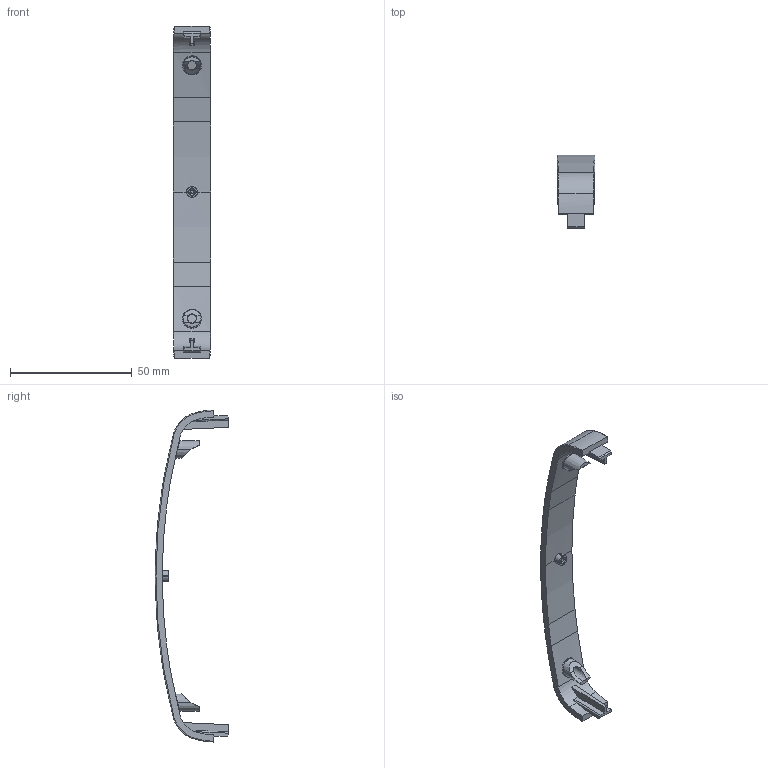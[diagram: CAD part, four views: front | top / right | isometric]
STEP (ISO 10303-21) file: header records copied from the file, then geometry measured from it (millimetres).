
FILE_DESCRIPTION (( 'STEP AP214' ), '1' );
FILE_NAME ('013.506.010A.STEP', '2022-02-24T10:48:49', ( '' ), ( '' ), 'SwSTEP 2.0', 'SolidWorks 2018', '' );
FILE_SCHEMA (( 'AUTOMOTIVE_DESIGN' ));
Length unit declared in the file: millimetre
Products named in the file (2): 013.506.010A
Bounding box: 15.49 x 30.23 x 136.41 mm (x, y, z)
Volume: 7677.9 mm3; surface area: 6603.9 mm2
Topology: 1 solids, 1 shells, 103 faces, 280 edges, 182 vertices
Faces by surface type: plane 39, bspline 26, cylinder 22, cone 14, torus 2
Entity records: 4909 total; most frequent: CARTESIAN_POINT 2301, ORIENTED_EDGE 560, DIRECTION 340, EDGE_CURVE 280, VERTEX_POINT 182, LINE 126, VECTOR 126, AXIS2_PLACEMENT_3D 107
